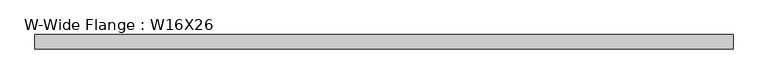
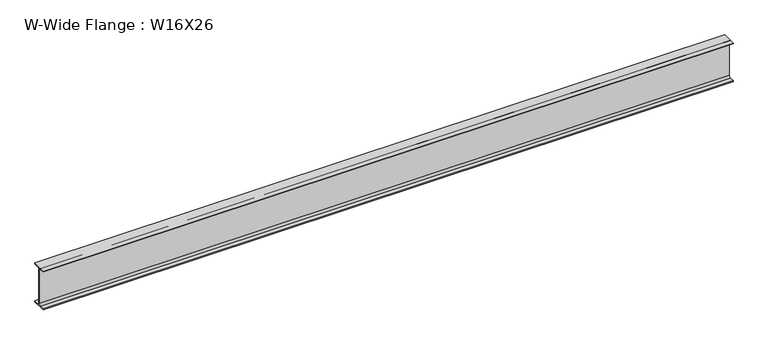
"""IFC4 building model written with IfcOpenShell, lengths in millimetres: beam geometry, W-Wide Flange : W16X26."""

from ifc_helpers import new_model, si_unit, point, frame, frame_2d, origin, place, context, project, spatial, polyline, circle_curve, trimmed, segment, composite_curve, outline, extrude, source, transform, mapped, element, save


def w_wide_flange_w16x26_c7a2a1c5(model_context):
    return source(origin(), model_context, "Body", "SweptSolid", [
        extrude(outline(composite_curve([segment(polyline([(69.85, -190.5496094), (69.85, -199.2808594), (-69.85, -199.2808594), (-69.85, -190.5496094), (-21.43125, -190.5496094)]), True, "CONTINUOUS"), segment(trimmed(circle_curve(frame_2d((-21.43125, -172.2933594)), 18.25625), [point((-21.43125, -190.5496094))], [point((-3.175, -172.2933594))], True, "CARTESIAN"), True, "CONTINUOUS"), segment(polyline([(-3.175, -172.2933594), (-3.175, 172.2933594)]), True, "CONTINUOUS"), segment(trimmed(circle_curve(frame_2d((-21.43125, 172.2933594)), 18.25625), [point((-3.175, 172.2933594))], [point((-21.43125, 190.5496094))], True, "CARTESIAN"), True, "CONTINUOUS"), segment(polyline([(-21.43125, 190.5496094), (-69.85, 190.5496094), (-69.85, 199.2808594), (69.85, 199.2808594), (69.85, 190.5496094), (21.43125, 190.5496094)]), True, "CONTINUOUS"), segment(trimmed(circle_curve(frame_2d((21.43125, 172.2933594)), 18.25625), [point((21.43125, 190.5496094))], [point((3.175, 172.2933594))], True, "CARTESIAN"), True, "CONTINUOUS"), segment(polyline([(3.175, 172.2933594), (3.175, -172.2933594)]), True, "CONTINUOUS"), segment(trimmed(circle_curve(frame_2d((21.43125, -172.2933594)), 18.25625), [point((3.175, -172.2933594))], [point((21.43125, -190.5496094))], True, "CARTESIAN"), True, "CONTINUOUS"), segment(polyline([(21.43125, -190.5496094), (69.85, -190.5496094)]), True, "CONTINUOUS")], self_intersect=False)), frame((-3365.7480469, 0.0, 0.0), z_axis=(1.0, 0.0, 0.0), x_axis=(0.0, 1.0, 0.0)), (0.0, 0.0, 1.0), 6731.2480469),
    ])


if __name__ == "__main__":
    model = new_model("IFC4")
    model_context = context("Model", 3, world=origin())
    ifc_project = project(units=[si_unit("LENGTHUNIT", "METRE", prefix="MILLI")], contexts=[model_context])
    site = spatial("IfcSite", under=ifc_project)
    building = spatial("IfcBuilding", under=site)
    placement = place(None, origin())
    w_wide_flange_w16x26_shape = w_wide_flange_w16x26_c7a2a1c5(model_context)
    element("IfcBeam", 1, ObjectType="W-Wide Flange : W16X26", at=placement, inside=building, context=model_context, shape_type="MappedRepresentation", body=[
        mapped(w_wide_flange_w16x26_shape, transform((0.0, 0.0, 0.0), x_axis=(1.0, 0.0, 0.0), y_axis=(0.0, 1.0, 0.0), z_axis=(0.0, 0.0, 1.0))),
    ])
    save(model, "model.ifc")
